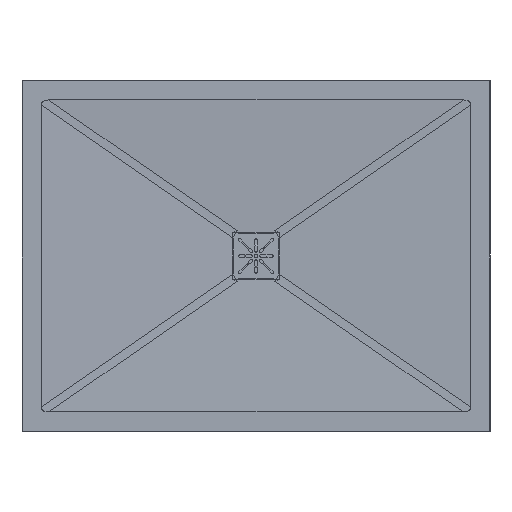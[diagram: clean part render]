
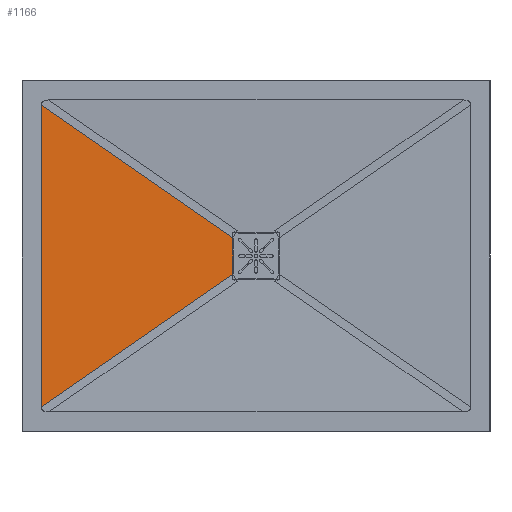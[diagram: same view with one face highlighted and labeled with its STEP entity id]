
A CAD part, top view. The second image highlights one B-rep face of the part: STEP entity #1166.
In plain terms, the highlighted planar face has unit normal (0.031, 0, 1).
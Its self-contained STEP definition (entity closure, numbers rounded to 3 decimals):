
#28 = LINE ( 'NONE', #1770, #2821 ) ;
#118 = CARTESIAN_POINT ( 'NONE',  ( -1052.44, 388.321, 282.307 ) ) ;
#221 = EDGE_LOOP ( 'NONE', ( #348, #2550, #289, #556 ) ) ;
#289 = ORIENTED_EDGE ( 'NONE', *, *, #710, .T. ) ;
#330 = DIRECTION ( 'NONE',  ( 0., -1., 0. ) ) ;
#348 = ORIENTED_EDGE ( 'NONE', *, *, #2428, .T. ) ;
#441 = DIRECTION ( 'NONE',  ( 0., 1., 0. ) ) ;
#556 = ORIENTED_EDGE ( 'NONE', *, *, #3902, .T. ) ;
#657 = VECTOR ( 'NONE', #2687, 1000. ) ;
#710 = EDGE_CURVE ( 'NONE', #1804, #3013, #3976, .T. ) ;
#999 = PLANE ( 'NONE',  #2072 ) ;
#1166 = ADVANCED_FACE ( 'NONE', ( #2682 ), #999, .T. ) ;
#1298 = DIRECTION ( 'NONE',  ( -0.821, 0.57, 0.025 ) ) ;
#1523 = VERTEX_POINT ( 'NONE', #118 ) ;
#1529 = VECTOR ( 'NONE', #1298, 1000. ) ;
#1770 = CARTESIAN_POINT ( 'NONE',  ( -1052.44, 435.257, 282.307 ) ) ;
#1804 = VERTEX_POINT ( 'NONE', #3346 ) ;
#1967 = LINE ( 'NONE', #3716, #2379 ) ;
#2072 = AXIS2_PLACEMENT_3D ( 'NONE', #3378, #3066, #330 ) ;
#2292 = VERTEX_POINT ( 'NONE', #2385 ) ;
#2379 = VECTOR ( 'NONE', #3082, 1000. ) ;
#2385 = CARTESIAN_POINT ( 'NONE',  ( -1052.44, 482.192, 282.307 ) ) ;
#2428 = EDGE_CURVE ( 'NONE', #1523, #2292, #28, .T. ) ;
#2550 = ORIENTED_EDGE ( 'NONE', *, *, #3508, .T. ) ;
#2645 = CARTESIAN_POINT ( 'NONE',  ( -1052.44, 482.192, 282.307 ) ) ;
#2682 = FACE_OUTER_BOUND ( 'NONE', #221, .T. ) ;
#2687 = DIRECTION ( 'NONE',  ( 0., -1., 0. ) ) ;
#2821 = VECTOR ( 'NONE', #441, 1000. ) ;
#3013 = VERTEX_POINT ( 'NONE', #3208 ) ;
#3066 = DIRECTION ( 'NONE',  ( 0.031, 0., 1. ) ) ;
#3082 = DIRECTION ( 'NONE',  ( 0.821, 0.57, -0.025 ) ) ;
#3208 = CARTESIAN_POINT ( 'NONE',  ( -1542.44, 48.321, 297.307 ) ) ;
#3294 = CARTESIAN_POINT ( 'NONE',  ( -1542.44, 435.257, 297.307 ) ) ;
#3346 = CARTESIAN_POINT ( 'NONE',  ( -1542.44, 822.192, 297.307 ) ) ;
#3378 = CARTESIAN_POINT ( 'NONE',  ( -1542.44, 822.192, 297.307 ) ) ;
#3508 = EDGE_CURVE ( 'NONE', #2292, #1804, #4325, .T. ) ;
#3716 = CARTESIAN_POINT ( 'NONE',  ( -1542.44, 48.321, 297.307 ) ) ;
#3902 = EDGE_CURVE ( 'NONE', #3013, #1523, #1967, .T. ) ;
#3976 = LINE ( 'NONE', #3294, #657 ) ;
#4325 = LINE ( 'NONE', #2645, #1529 ) ;
